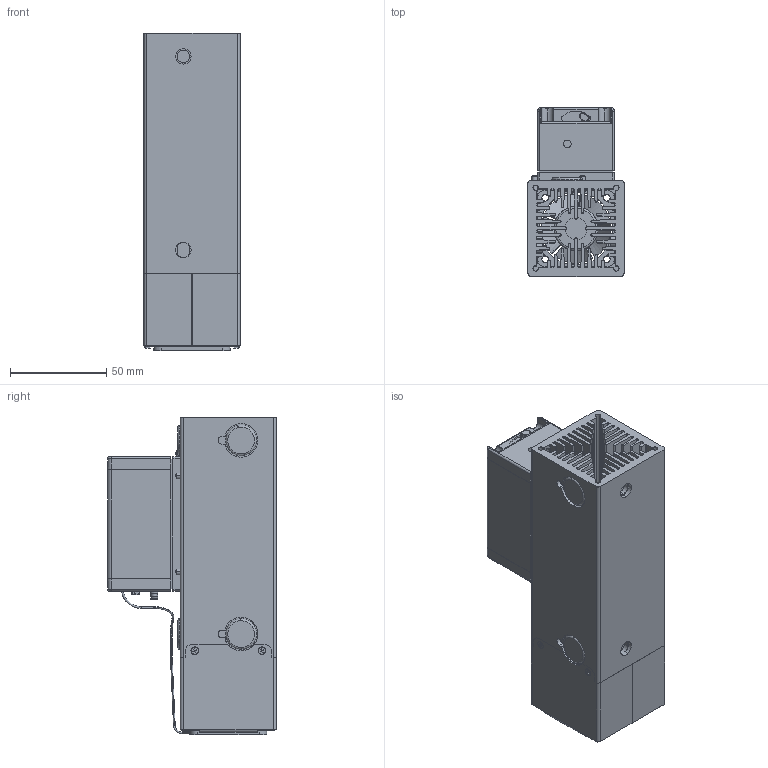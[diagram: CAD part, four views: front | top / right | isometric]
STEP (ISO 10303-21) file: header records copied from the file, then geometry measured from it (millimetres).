
FILE_DESCRIPTION (( 'STEP AP203' ), '1' );
FILE_NAME ('Obis with Heat Sink.STEP', '2011-04-21T14:40:05', ( 'inst' ), ( '' ), 'SwSTEP 2.0', 'SolidWorks 2011', '' );
FILE_SCHEMA (( 'CONFIG_CONTROL_DESIGN' ));
Length unit declared in the file: millimetre
Products named in the file (3): Obis with Heat Sink; Obis Laser Head; Obis Heat Sink
Assembly tree (2 placements, depth 2):
  Obis with Heat Sink
    Obis Heat Sink
    Obis Laser Head
Bounding box: 50 x 87.92 x 165.2 mm (x, y, z)
Volume: 235789.3 mm3; surface area: 196112.5 mm2
Topology: 24 solids, 24 shells, 3113 faces, 8638 edges, 5617 vertices
Faces by surface type: plane 1997, cylinder 888, bspline 133, cone 49, torus 30, sphere 16
Entity records: 107304 total; most frequent: CARTESIAN_POINT 28009, ORIENTED_EDGE 17244, DIRECTION 15410, EDGE_CURVE 8622, LINE 6186, VECTOR 6186, VERTEX_POINT 5617, AXIS2_PLACEMENT_3D 4612
